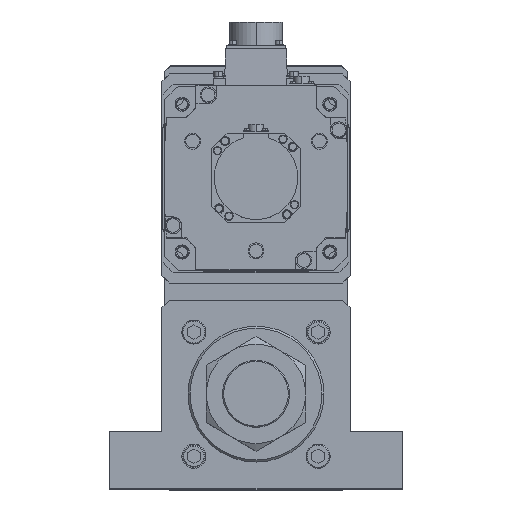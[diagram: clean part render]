
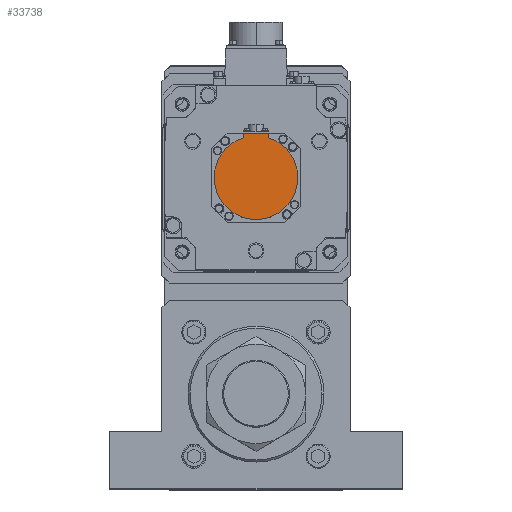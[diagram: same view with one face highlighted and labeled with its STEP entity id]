
A CAD part, top view. The second image highlights one B-rep face of the part: STEP entity #33738.
In plain terms, the highlighted planar face has unit normal (0, 0, 1) as drawn and (0, 0, -1) by its records, which use the part's own axes.
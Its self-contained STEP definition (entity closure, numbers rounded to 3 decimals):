
#555 = VERTEX_POINT ( 'NONE', #14844 ) ;
#2218 = DIRECTION ( 'NONE',  ( 1., 0., 0. ) ) ;
#4004 = ORIENTED_EDGE ( 'NONE', *, *, #45228, .T. ) ;
#5132 = EDGE_CURVE ( 'NONE', #30748, #54272, #22565, .T. ) ;
#6781 = LINE ( 'NONE', #23192, #8663 ) ;
#7480 = CARTESIAN_POINT ( 'NONE',  ( -40., 0., -268. ) ) ;
#7610 = VECTOR ( 'NONE', #17314, 1000. ) ;
#7616 = ORIENTED_EDGE ( 'NONE', *, *, #42617, .T. ) ;
#8663 = VECTOR ( 'NONE', #30958, 1000. ) ;
#9744 = CARTESIAN_POINT ( 'NONE',  ( 0., -42.5, -268. ) ) ;
#9979 = CARTESIAN_POINT ( 'NONE',  ( 0., 0., -268. ) ) ;
#10607 = CARTESIAN_POINT ( 'NONE',  ( -12., -38.158, -268. ) ) ;
#10895 = PLANE ( 'NONE',  #51501 ) ;
#11985 = EDGE_LOOP ( 'NONE', ( #4004, #22258, #32946, #12619, #26787, #7616 ) ) ;
#12619 = ORIENTED_EDGE ( 'NONE', *, *, #15720, .F. ) ;
#13606 = LINE ( 'NONE', #46584, #7610 ) ;
#14416 = VERTEX_POINT ( 'NONE', #26020 ) ;
#14844 = CARTESIAN_POINT ( 'NONE',  ( 40., 0., -268. ) ) ;
#14979 = CIRCLE ( 'NONE', #53699, 40. ) ;
#15720 = EDGE_CURVE ( 'NONE', #51259, #555, #52275, .T. ) ;
#17314 = DIRECTION ( 'NONE',  ( 0., 1., 0. ) ) ;
#18290 = DIRECTION ( 'NONE',  ( 1., 0., 0. ) ) ;
#19446 = FACE_OUTER_BOUND ( 'NONE', #11985, .T. ) ;
#20867 = VECTOR ( 'NONE', #26768, 1000. ) ;
#22258 = ORIENTED_EDGE ( 'NONE', *, *, #5132, .F. ) ;
#22565 = CIRCLE ( 'NONE', #40242, 40. ) ;
#23192 = CARTESIAN_POINT ( 'NONE',  ( -12., -40.329, -268. ) ) ;
#24020 = AXIS2_PLACEMENT_3D ( 'NONE', #47177, #47738, #52185 ) ;
#25859 = CARTESIAN_POINT ( 'NONE',  ( 12., -38.158, -268. ) ) ;
#26020 = CARTESIAN_POINT ( 'NONE',  ( 12., -42.5, -268. ) ) ;
#26768 = DIRECTION ( 'NONE',  ( -1., 0., 0. ) ) ;
#26787 = ORIENTED_EDGE ( 'NONE', *, *, #32906, .F. ) ;
#29467 = LINE ( 'NONE', #9744, #20867 ) ;
#30748 = VERTEX_POINT ( 'NONE', #7480 ) ;
#30958 = DIRECTION ( 'NONE',  ( 0., 1., 0. ) ) ;
#31816 = CARTESIAN_POINT ( 'NONE',  ( 0., -1.25, -268. ) ) ;
#32906 = EDGE_CURVE ( 'NONE', #14416, #51259, #13606, .T. ) ;
#32946 = ORIENTED_EDGE ( 'NONE', *, *, #35781, .F. ) ;
#33310 = VERTEX_POINT ( 'NONE', #51164 ) ;
#33738 = ADVANCED_FACE ( 'NONE', ( #19446 ), #10895, .F. ) ;
#35781 = EDGE_CURVE ( 'NONE', #555, #30748, #14979, .T. ) ;
#40242 = AXIS2_PLACEMENT_3D ( 'NONE', #9979, #44226, #18290 ) ;
#40341 = DIRECTION ( 'NONE',  ( 0., 0., 1. ) ) ;
#42617 = EDGE_CURVE ( 'NONE', #14416, #33310, #29467, .T. ) ;
#44226 = DIRECTION ( 'NONE',  ( 0., 0., 1. ) ) ;
#45228 = EDGE_CURVE ( 'NONE', #33310, #54272, #6781, .T. ) ;
#46584 = CARTESIAN_POINT ( 'NONE',  ( 12., -1.25, -268. ) ) ;
#47177 = CARTESIAN_POINT ( 'NONE',  ( 0., 0., -268. ) ) ;
#47477 = DIRECTION ( 'NONE',  ( 1., 0., 0. ) ) ;
#47738 = DIRECTION ( 'NONE',  ( 0., 0., 1. ) ) ;
#48025 = CARTESIAN_POINT ( 'NONE',  ( 0., 0., -268. ) ) ;
#51164 = CARTESIAN_POINT ( 'NONE',  ( -12., -42.5, -268. ) ) ;
#51259 = VERTEX_POINT ( 'NONE', #25859 ) ;
#51501 = AXIS2_PLACEMENT_3D ( 'NONE', #31816, #40341, #2218 ) ;
#51744 = DIRECTION ( 'NONE',  ( 0., 0., 1. ) ) ;
#52185 = DIRECTION ( 'NONE',  ( 1., 0., 0. ) ) ;
#52275 = CIRCLE ( 'NONE', #24020, 40. ) ;
#53699 = AXIS2_PLACEMENT_3D ( 'NONE', #48025, #51744, #47477 ) ;
#54272 = VERTEX_POINT ( 'NONE', #10607 ) ;
